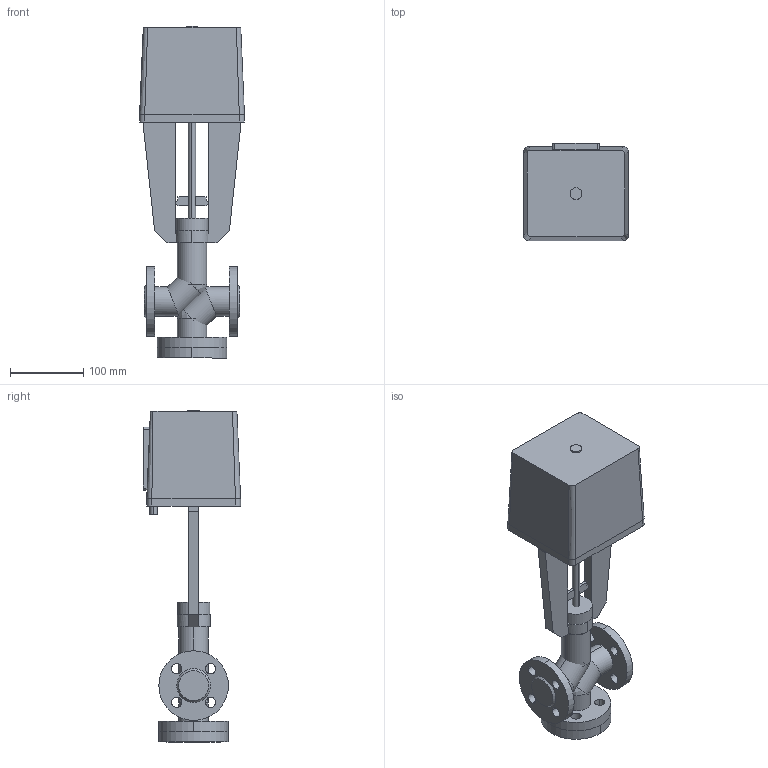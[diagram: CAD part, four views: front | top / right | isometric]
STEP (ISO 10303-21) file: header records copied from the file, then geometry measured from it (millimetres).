
FILE_DESCRIPTION(/* description */ (''),/* implementation_level */ '2;1');
FILE_NAME(/* name */ 'ТРК DN15 PN 2.5 МПа LEA 1200',/* time_stamp */ '2026-07-14T23:05:34+03:00',/* author */ (''),/* organization */ (''),/* preprocessor_version */ 'ST-DEVELOPER v20',/* originating_system */ '',/* authorisation */ '');
FILE_SCHEMA (('AP242_MANAGED_MODEL_BASED_3D_ENGINEERING_MIM_LF { 1 0 10303 442 1 1 4 }'));
Length unit declared in the file: millimetre
Products named in the file (14): TopLevelAssembly; Выдавливание; Модификатор; Модификатор_1; Выдавливание_
1; Выдавливание_
2; Вращение; Выдавливание_
3; Выдавливание_
4; 1600; Переход; Объемная геометрия 
присоединена; Полый Выдавливание; Объемная геометрия 
присоединена_1
Assembly tree (13 placements, depth 2):
  TopLevelAssembly
    Выдавливание
    Модификатор
    Модификатор_1
    Выдавливание_
1
    Выдавливание_
2
    Вращение
    Выдавливание_
3
    Выдавливание_
4
    1600
    Переход
    Объемная геометрия 
присоединена
    Полый Выдавливание
    Объемная геометрия 
присоединена_1
Bounding box: 143 x 132.49 x 453 mm (x, y, z)
Volume: 3127194.7 mm3; surface area: 316702.7 mm2
Topology: 18 solids, 18 shells, 159 faces, 366 edges, 240 vertices
Faces by surface type: plane 77, cylinder 70, bspline 8, cone 4
Entity records: 5164 total; most frequent: CARTESIAN_POINT 972, DIRECTION 882, ORIENTED_EDGE 716, EDGE_CURVE 358, AXIS2_PLACEMENT_3D 346, VERTEX_POINT 240, EDGE_LOOP 194, LINE 190
